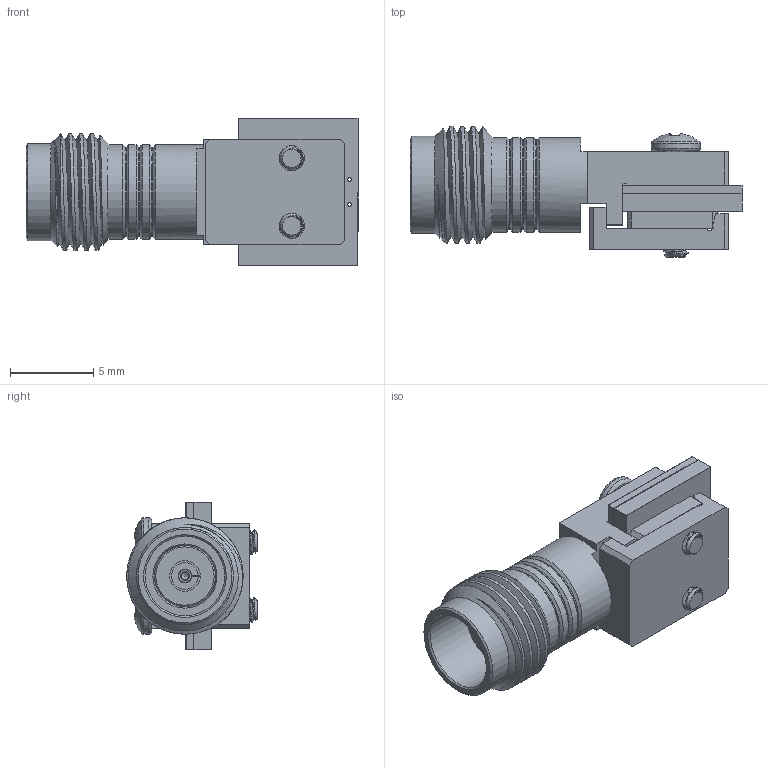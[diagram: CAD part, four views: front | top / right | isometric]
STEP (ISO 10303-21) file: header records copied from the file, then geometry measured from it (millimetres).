
FILE_DESCRIPTION (( 'STEP AP214' ), '1' );
FILE_NAME ('TMB-E8F2-1L1-01.STEP', '2020-09-03T01:44:30', ( '' ), ( '' ), 'SwSTEP 2.0', 'SolidWorks 2019', '' );
FILE_SCHEMA (( 'AUTOMOTIVE_DESIGN' ));
Length unit declared in the file: inch
Products named in the file (12): plate-solderless; 101-2545-440000A; plate-solderless-base; solderless_59-20007-44070C(2019-06-11); insulator; 91772A055_Passivated 18-8 Stainless Steel Pan Head Phillips Screw, 0-80 Thread, 1_4_ Long _ McMaster-Carr_91772A055; body-solderless; 103-1497-226080C; 102-1130-700000B; TMB-E8F2-1L1-01; CC; CONNECTOR-PCB-EDGE-MOUNT_solderless
Assembly tree (12 placements, depth 3):
  TMB-E8F2-1L1-01
    CONNECTOR-PCB-EDGE-MOUNT_solderless
    solderless_59-20007-44070C(2019-06-11)
      101-2545-440000A
      CC
      103-1497-226080C
      102-1130-700000B
      insulator
      body-solderless
    plate-solderless-base
    91772A055_Passivated 18-8 Stainless Steel Pan Head Phillips Screw, 0-80 Thread, 1_4_ Long _ McMaster-Carr_91772A055  x2
    plate-solderless
Bounding box: 19.97 x 7.85 x 8.89 mm (x, y, z)
Volume: 562.3 mm3; surface area: 1860.6 mm2
Topology: 17 solids, 17 shells, 591 faces, 1745 edges, 1202 vertices
Faces by surface type: cylinder 313, plane 187, cone 65, bspline 16, torus 7, sphere 3
Full cylindrical faces by diameter (mm): 0.178 x1, 0.203 x150, 0.305 x2, 0.31 x1, 0.34 x1, 0.55 x1, 0.57 x2, 0.606 x1, 0.7 x1, 0.804 x2, 1 x1, 1.02 x1, 1.191 x2, 1.311 x1, 1.575 x2, 1.61 x1, 1.702 x2, 1.778 x1, 1.85 x2, 2.083 x2, 2.145 x1, 2.184 x10, 2.946 x2, 3.58 x1, 3.61 x1, 3.64 x1, 3.67 x1, 4.78 x1, 5.7 x4, 5.84 x1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
Entity records: 20977 total; most frequent: CARTESIAN_POINT 7570, DIRECTION 2440, ORIENTED_EDGE 2218, EDGE_CURVE 1109, EDGE_LOOP 1084, AXIS2_PLACEMENT_3D 1043, VERTEX_POINT 871, FACE_OUTER_BOUND 712
